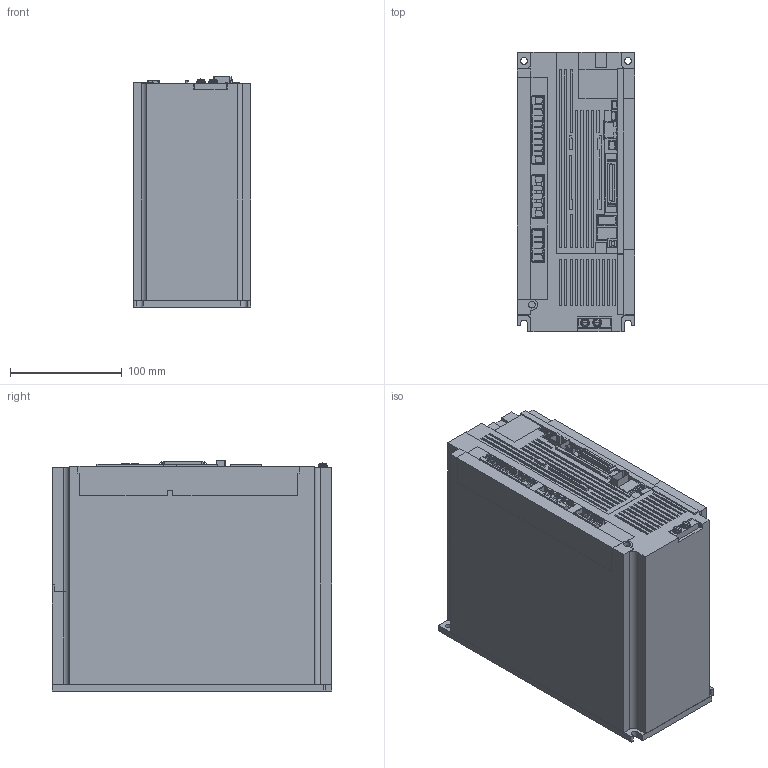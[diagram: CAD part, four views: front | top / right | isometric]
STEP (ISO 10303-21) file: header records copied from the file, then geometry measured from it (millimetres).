
FILE_DESCRIPTION((''),'2;1');
FILE_NAME('MR-J4-350A4A_ASM','2012-10-31T',('JE18792'),(''),'PRO/ENGINEER BY PARAMETRIC TECHNOLOGY CORPORATION, 2010160','PRO/ENGINEER BY PARAMETRIC TECHNOLOGY CORPORATION, 2010160','');
FILE_SCHEMA(('CONFIG_CONTROL_DESIGN'));
Length unit declared in the file: millimetre
Products named in the file (20): J4-500-CHASSIS; J4-500-CASE; J4-500-FRONTCOVER-2; J4-500-FANCOVER; J4-500-700-SIDECOVER; J4-FRONTPANEL; J4-LENZ; J4A-CN1; J4A-CN2; J4A-CN3; J4A-CN4; J4A-CN5; J4A-CN6; J4A-CN8; J4-CNP1-2; J4-CNP2-2; J4-CNP3-2; FAN80; SW-PW-P-NA-M4X12-PE; MR-J4-350A4A_ASM
Assembly tree (20 placements, depth 2):
  MR-J4-350A4A_ASM
    J4-500-CHASSIS
    J4-500-CASE
    J4-500-FRONTCOVER-2
    J4-500-FANCOVER
    J4-500-700-SIDECOVER
    J4-FRONTPANEL
    J4-LENZ
    J4A-CN1
    J4A-CN2
    J4A-CN3
    J4A-CN4
    J4A-CN5
    J4A-CN6
    J4A-CN8
    J4-CNP1-2
    J4-CNP2-2
    J4-CNP3-2
    FAN80
    SW-PW-P-NA-M4X12-PE  x2
Bounding box: 105 x 250 x 205.95 mm (x, y, z)
Volume: 691551.5 mm3; surface area: 466677.6 mm2
Topology: 21 solids, 21 shells, 1040 faces, 2905 edges, 1930 vertices
Faces by surface type: plane 858, cylinder 170, cone 4, torus 4, sphere 4
Entity records: 33288 total; most frequent: CARTESIAN_POINT 5846, ORIENTED_EDGE 5742, DIRECTION 5346, EDGE_CURVE 2871, VECTOR 2524, LINE 2524, VERTEX_POINT 1911, AXIS2_PLACEMENT_3D 1411
